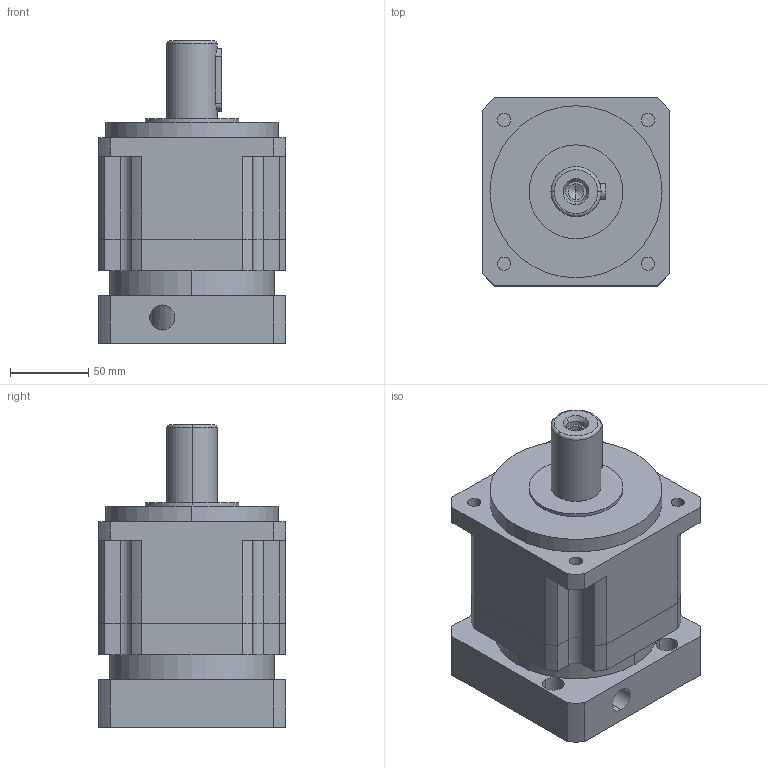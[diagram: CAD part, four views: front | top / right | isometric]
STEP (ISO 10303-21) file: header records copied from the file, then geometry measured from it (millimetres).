
FILE_DESCRIPTION (( 'STEP AP203' ), '1' );
FILE_NAME ('PAG120-L1-19-95-130.STEP', '2022-07-18T08:04:36', ( 'Windows User' ), ( 'P R C' ), 'SwSTEP 2.0', 'SolidWorks 2016', '' );
FILE_SCHEMA (( 'CONFIG_CONTROL_DESIGN' ));
Length unit declared in the file: millimetre
Products named in the file (7): PAG120-本体齿圈; PAG120-薊粣ん-19_LZ03; PAG120-蟀諉-19-95-M8-130-LR60; 囀鞠褒蹟佪-M8℅25; 邧埴瑩 10x8x40; 粣創-6009 45x75x16; PAG120-L1-19-95-130
Assembly tree (6 placements, depth 2):
  PAG120-L1-19-95-130
    PAG120-本体齿圈
    PAG120-薊粣ん-19_LZ03
    PAG120-蟀諉-19-95-M8-130-LR60
    囀鞠褒蹟佪-M8℅25
    邧埴瑩 10x8x40
    粣創-6009 45x75x16
Bounding box: 120 x 120 x 193.5 mm (x, y, z)
Volume: 1607318.7 mm3; surface area: 207657 mm2
Topology: 6 solids, 6 shells, 996 faces, 2767 edges, 1826 vertices
Faces by surface type: plane 533, bspline 162, cylinder 152, sphere 83, torus 50, cone 16
Entity records: 43860 total; most frequent: CARTESIAN_POINT 18944, ORIENTED_EDGE 5432, DIRECTION 4315, EDGE_CURVE 2716, VERTEX_POINT 1798, VECTOR 1537, LINE 1537, AXIS2_PLACEMENT_3D 1389
